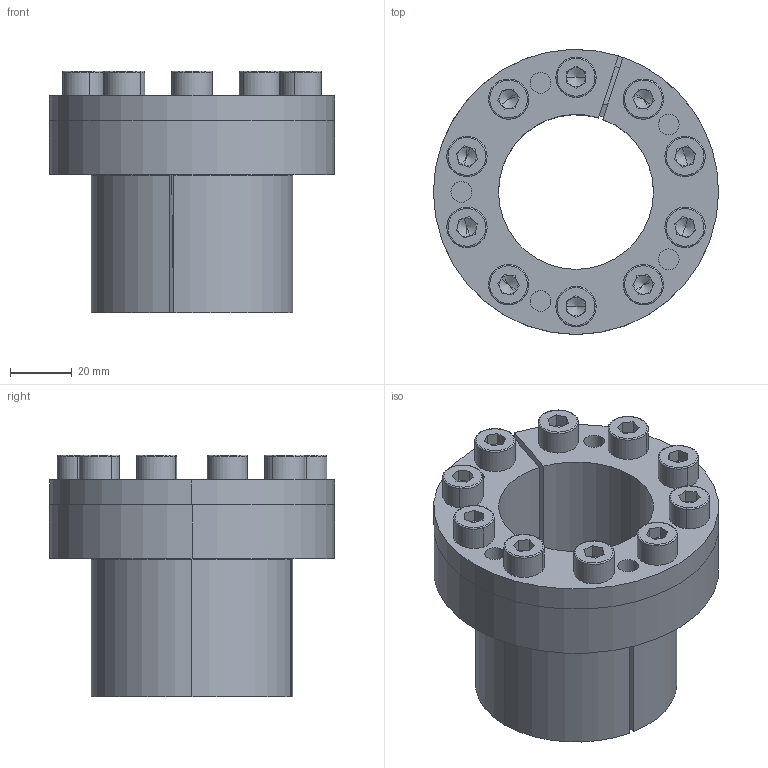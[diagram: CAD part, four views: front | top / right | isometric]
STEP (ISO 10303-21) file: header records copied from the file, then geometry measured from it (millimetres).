
FILE_DESCRIPTION (( 'STEP AP214' ), '1' );
FILE_NAME ('CONEX-B-50x65-CN-55-028.STEP', '2014-04-30T07:40:09', ( 'Pc' ), ( '' ), 'SwSTEP 2.0', 'SolidWorks 2013', '' );
FILE_SCHEMA (( 'AUTOMOTIVE_DESIGN' ));
Length unit declared in the file: millimetre
Products named in the file (1): CONEX-B-50x65-CN-55-028
Bounding box: 92 x 92 x 78.02 mm (x, y, z)
Volume: 169135.6 mm3; surface area: 87062.9 mm2
Topology: 13 solids, 13 shells, 360 faces, 828 edges, 494 vertices
Faces by surface type: plane 162, cylinder 106, torus 46, cone 46
Entity records: 14258 total; most frequent: DIRECTION 1916, CARTESIAN_POINT 1717, ORIENTED_EDGE 1616, EDGE_CURVE 808, AXIS2_PLACEMENT_3D 755, VERTEX_POINT 494, EDGE_LOOP 432, VECTOR 406
